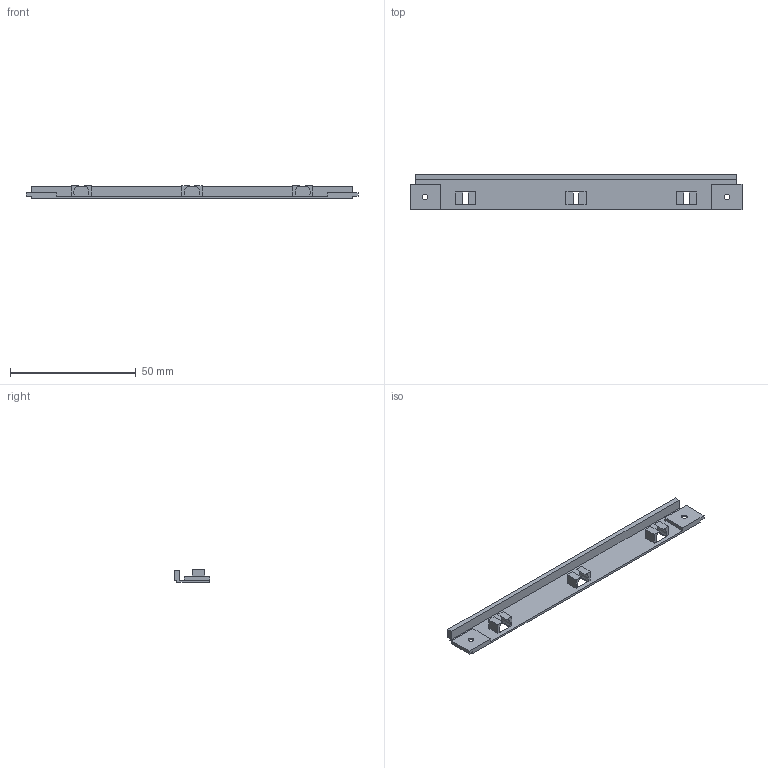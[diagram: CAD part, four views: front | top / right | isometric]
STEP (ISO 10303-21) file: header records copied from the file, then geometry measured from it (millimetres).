
FILE_DESCRIPTION(('Open CASCADE Model'),'2;1');
FILE_NAME('Open CASCADE Shape Model','2026-11-07T21:51:47',('Author'),( 'Open CASCADE'),'Open CASCADE STEP processor 7.9','Open CASCADE 7.9' ,'Unknown');
FILE_SCHEMA(('AUTOMOTIVE_DESIGN { 1 0 10303 214 1 1 1 1 }'));
Length unit declared in the file: millimetre
Products named in the file (1): Open CASCADE STEP translator 7.9 6
Bounding box: 132 x 14 x 5 mm (x, y, z)
Volume: 2667.5 mm3; surface area: 5393 mm2
Topology: 1 solids, 1 shells, 74 faces, 208 edges, 138 vertices
Faces by surface type: plane 64, cylinder 10
Full cylindrical faces by diameter (mm): 2.2 x2, 7.2 x2
Entity records: 4948 total; most frequent: CARTESIAN_POINT 1033, DIRECTION 628, LINE 424, VECTOR 424, ORIENTED_EDGE 416, PCURVE 416, DEFINITIONAL_REPRESENTATION 416, EDGE_CURVE 208
